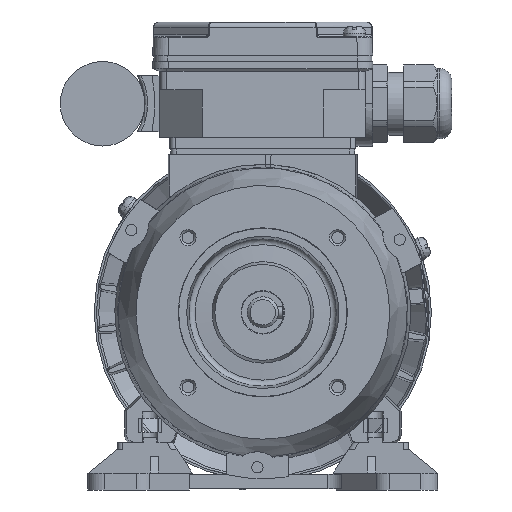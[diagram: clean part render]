
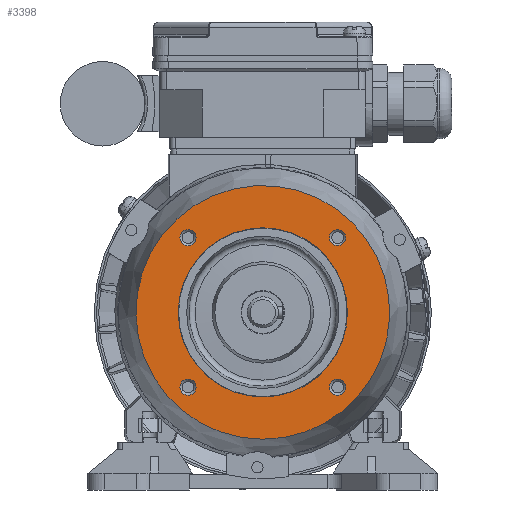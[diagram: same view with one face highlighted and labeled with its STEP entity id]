
A CAD part, left-side view. The second image highlights one B-rep face of the part: STEP entity #3398.
In plain terms, the highlighted planar face has unit normal (-1, 0, 0) as drawn and (0, -1, 0) by its records, which use the part's own axes.
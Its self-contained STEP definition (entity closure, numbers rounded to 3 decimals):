
#3398 = ADVANCED_FACE( '', ( #7667, #7668, #7669, #7670, #7671, #7672 ), #7673, .T. );
#7667 = FACE_BOUND( '', #15841, .T. );
#7668 = FACE_BOUND( '', #15842, .T. );
#7669 = FACE_BOUND( '', #15843, .T. );
#7670 = FACE_BOUND( '', #15844, .T. );
#7671 = FACE_OUTER_BOUND( '', #15845, .T. );
#7672 = FACE_BOUND( '', #15846, .T. );
#7673 = PLANE( '', #15847 );
#15841 = EDGE_LOOP( '', ( #30593 ) );
#15842 = EDGE_LOOP( '', ( #30594 ) );
#15843 = EDGE_LOOP( '', ( #30595 ) );
#15844 = EDGE_LOOP( '', ( #30596 ) );
#15845 = EDGE_LOOP( '', ( #30597 ) );
#15846 = EDGE_LOOP( '', ( #30598 ) );
#15847 = AXIS2_PLACEMENT_3D( '', #30599, #30600, #30601 );
#30593 = ORIENTED_EDGE( '', *, *, #45564, .T. );
#30594 = ORIENTED_EDGE( '', *, *, #45565, .T. );
#30595 = ORIENTED_EDGE( '', *, *, #45566, .T. );
#30596 = ORIENTED_EDGE( '', *, *, #45567, .T. );
#30597 = ORIENTED_EDGE( '', *, *, #45568, .T. );
#30598 = ORIENTED_EDGE( '', *, *, #45569, .F. );
#30599 = CARTESIAN_POINT( '', ( 0., 2.5, 30. ) );
#30600 = DIRECTION( '', ( 0., -1., 0. ) );
#30601 = DIRECTION( '', ( 0., 0., -1. ) );
#45564 = EDGE_CURVE( '', #54630, #54630, #54631, .F. );
#45565 = EDGE_CURVE( '', #54632, #54632, #54633, .F. );
#45566 = EDGE_CURVE( '', #54634, #54634, #54635, .F. );
#45567 = EDGE_CURVE( '', #54636, #54636, #54637, .F. );
#45568 = EDGE_CURVE( '', #54638, #54638, #54639, .T. );
#45569 = EDGE_CURVE( '', #54640, #54640, #54641, .T. );
#54630 = VERTEX_POINT( '', #68425 );
#54631 = CIRCLE( '', #68426, 2.867 );
#54632 = VERTEX_POINT( '', #68427 );
#54633 = CIRCLE( '', #68428, 2.867 );
#54634 = VERTEX_POINT( '', #68429 );
#54635 = CIRCLE( '', #68430, 2.867 );
#54636 = VERTEX_POINT( '', #68431 );
#54637 = CIRCLE( '', #68432, 2.867 );
#54638 = VERTEX_POINT( '', #68433 );
#54639 = CIRCLE( '', #68434, 45. );
#54640 = VERTEX_POINT( '', #68435 );
#54641 = CIRCLE( '', #68436, 30. );
#68425 = CARTESIAN_POINT( '', ( -26.517, 2.5, -29.384 ) );
#68426 = AXIS2_PLACEMENT_3D( '', #83803, #83804, #83805 );
#68427 = CARTESIAN_POINT( '', ( 26.517, 2.5, -29.384 ) );
#68428 = AXIS2_PLACEMENT_3D( '', #83806, #83807, #83808 );
#68429 = CARTESIAN_POINT( '', ( 26.517, 2.5, 23.65 ) );
#68430 = AXIS2_PLACEMENT_3D( '', #83809, #83810, #83811 );
#68431 = CARTESIAN_POINT( '', ( -26.517, 2.5, 23.65 ) );
#68432 = AXIS2_PLACEMENT_3D( '', #83812, #83813, #83814 );
#68433 = CARTESIAN_POINT( '', ( 0., 2.5, -45. ) );
#68434 = AXIS2_PLACEMENT_3D( '', #83815, #83816, #83817 );
#68435 = CARTESIAN_POINT( '', ( 0., 2.5, -30. ) );
#68436 = AXIS2_PLACEMENT_3D( '', #83818, #83819, #83820 );
#83803 = CARTESIAN_POINT( '', ( -26.517, 2.5, -26.517 ) );
#83804 = DIRECTION( '', ( 0., -1., 0. ) );
#83805 = DIRECTION( '', ( 0., 0., -1. ) );
#83806 = CARTESIAN_POINT( '', ( 26.517, 2.5, -26.517 ) );
#83807 = DIRECTION( '', ( 0., -1., 0. ) );
#83808 = DIRECTION( '', ( 0., 0., -1. ) );
#83809 = CARTESIAN_POINT( '', ( 26.517, 2.5, 26.517 ) );
#83810 = DIRECTION( '', ( 0., -1., 0. ) );
#83811 = DIRECTION( '', ( 0., 0., -1. ) );
#83812 = CARTESIAN_POINT( '', ( -26.517, 2.5, 26.517 ) );
#83813 = DIRECTION( '', ( 0., -1., 0. ) );
#83814 = DIRECTION( '', ( 0., 0., -1. ) );
#83815 = CARTESIAN_POINT( '', ( 0., 2.5, 0. ) );
#83816 = DIRECTION( '', ( 0., -1., 0. ) );
#83817 = DIRECTION( '', ( 0., 0., -1. ) );
#83818 = CARTESIAN_POINT( '', ( 0., 2.5, 0. ) );
#83819 = DIRECTION( '', ( 0., -1., 0. ) );
#83820 = DIRECTION( '', ( 0., 0., -1. ) );
